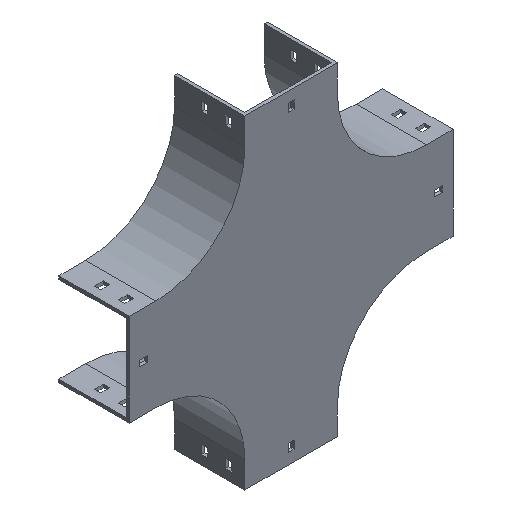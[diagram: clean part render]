
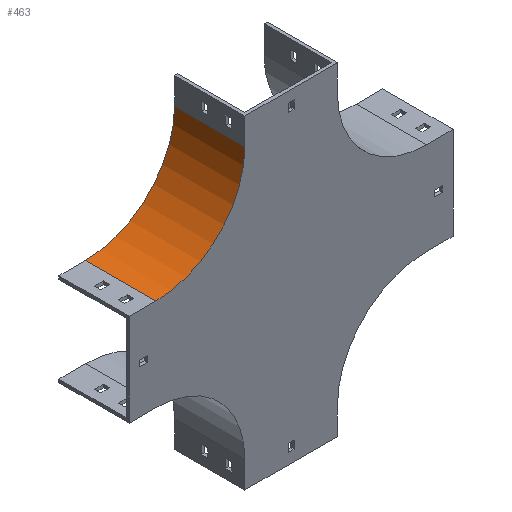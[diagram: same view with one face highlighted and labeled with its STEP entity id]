
A CAD part, isometric view. The second image highlights one B-rep face of the part: STEP entity #463.
In plain terms, the highlighted cylindrical face has radius 100 mm (diameter 200 mm), a partial arc.
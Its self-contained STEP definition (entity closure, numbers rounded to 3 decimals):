
#74 = EDGE_CURVE ( 'NONE', #3119, #2321, #1818, .T. ) ;
#326 = DIRECTION ( 'NONE',  ( 0., -1., 0. ) ) ;
#330 = CARTESIAN_POINT ( 'NONE',  ( -204., 79., 0. ) ) ;
#408 = CARTESIAN_POINT ( 'NONE',  ( -304., 79., -100. ) ) ;
#417 = EDGE_LOOP ( 'NONE', ( #2513, #1326, #647, #3786 ) ) ;
#463 = ADVANCED_FACE ( 'NONE', ( #1974 ), #3738, .F. ) ;
#647 = ORIENTED_EDGE ( 'NONE', *, *, #917, .F. ) ;
#827 = CARTESIAN_POINT ( 'NONE',  ( -304., 79., 0. ) ) ;
#898 = CIRCLE ( 'NONE', #3575, 100. ) ;
#917 = EDGE_CURVE ( 'NONE', #946, #3119, #1198, .T. ) ;
#946 = VERTEX_POINT ( 'NONE', #1249 ) ;
#1068 = AXIS2_PLACEMENT_3D ( 'NONE', #1813, #326, #3281 ) ;
#1198 = CIRCLE ( 'NONE', #1068, 100. ) ;
#1243 = CARTESIAN_POINT ( 'NONE',  ( -304., 0., -100. ) ) ;
#1249 = CARTESIAN_POINT ( 'NONE',  ( -304., 79., -100. ) ) ;
#1326 = ORIENTED_EDGE ( 'NONE', *, *, #74, .F. ) ;
#1396 = VECTOR ( 'NONE', #2796, 1000. ) ;
#1442 = VECTOR ( 'NONE', #2369, 1000. ) ;
#1446 = AXIS2_PLACEMENT_3D ( 'NONE', #827, #3142, #3125 ) ;
#1517 = VERTEX_POINT ( 'NONE', #1243 ) ;
#1698 = DIRECTION ( 'NONE',  ( 0., -1., 0. ) ) ;
#1813 = CARTESIAN_POINT ( 'NONE',  ( -304., 79., 0. ) ) ;
#1818 = LINE ( 'NONE', #330, #1442 ) ;
#1974 = FACE_OUTER_BOUND ( 'NONE', #417, .T. ) ;
#2156 = CARTESIAN_POINT ( 'NONE',  ( -204., 0., 0. ) ) ;
#2278 = DIRECTION ( 'NONE',  ( 0., 0., 1. ) ) ;
#2321 = VERTEX_POINT ( 'NONE', #2156 ) ;
#2369 = DIRECTION ( 'NONE',  ( 0., -1., 0. ) ) ;
#2467 = EDGE_CURVE ( 'NONE', #946, #1517, #2815, .T. ) ;
#2513 = ORIENTED_EDGE ( 'NONE', *, *, #3139, .T. ) ;
#2796 = DIRECTION ( 'NONE',  ( 0., -1., 0. ) ) ;
#2815 = LINE ( 'NONE', #408, #1396 ) ;
#2900 = CARTESIAN_POINT ( 'NONE',  ( -204., 79., 0. ) ) ;
#3119 = VERTEX_POINT ( 'NONE', #2900 ) ;
#3125 = DIRECTION ( 'NONE',  ( 0., 0., -1. ) ) ;
#3139 = EDGE_CURVE ( 'NONE', #1517, #2321, #898, .T. ) ;
#3142 = DIRECTION ( 'NONE',  ( 0., -1., 0. ) ) ;
#3165 = CARTESIAN_POINT ( 'NONE',  ( -304., 0., 0. ) ) ;
#3281 = DIRECTION ( 'NONE',  ( 0., 0., 1. ) ) ;
#3575 = AXIS2_PLACEMENT_3D ( 'NONE', #3165, #1698, #2278 ) ;
#3738 = CYLINDRICAL_SURFACE ( 'NONE', #1446, 100. ) ;
#3786 = ORIENTED_EDGE ( 'NONE', *, *, #2467, .T. ) ;
